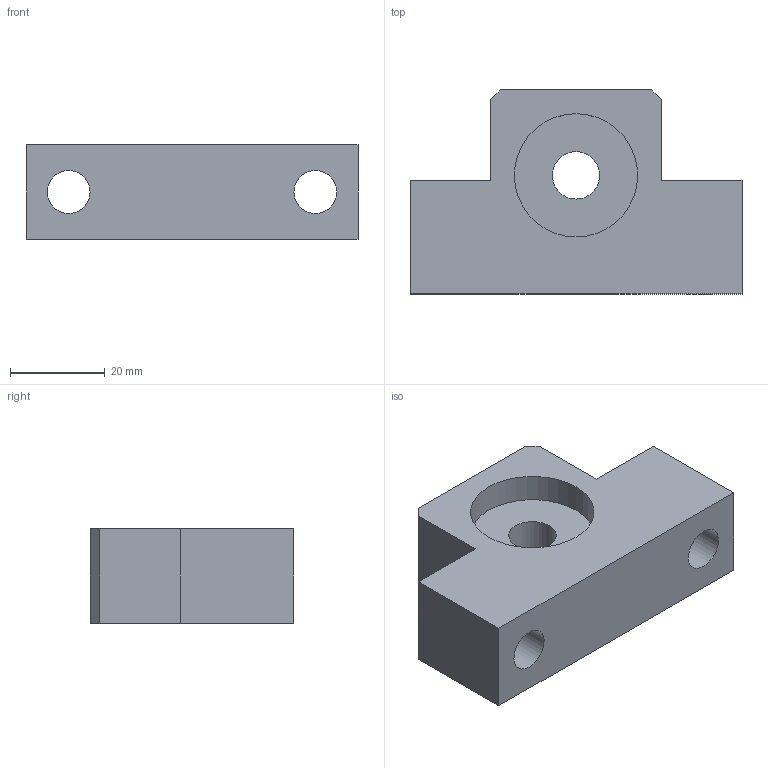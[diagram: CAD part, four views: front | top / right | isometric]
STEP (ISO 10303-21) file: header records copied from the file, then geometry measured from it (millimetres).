
FILE_DESCRIPTION(/* description */ (''),/* implementation_level */ '2;1');
FILE_NAME(/* name */ 'C:\Users\tenki620635\Desktop\官網\圖面\軸承座\3D\setp檔\EF12.stp',/* time_stamp */ '2020-11-20T18:09:10+08:00',/* author */ ('tenki620635'),/* organization */ (''),/* preprocessor_version */ 'ST-DEVELOPER v15.2',/* originating_system */ 'Autodesk Inventor 2014',/* authorisation */ '');
FILE_SCHEMA (('AUTOMOTIVE_DESIGN { 1 0 10303 214 3 1 1 }'));
Length unit declared in the file: millimetre
Products named in the file (1): EF12
Bounding box: 70 x 43 x 20 mm (x, y, z)
Volume: 37146.9 mm3; surface area: 11370.3 mm2
Topology: 1 solids, 1 shells, 19 faces, 47 edges, 32 vertices
Faces by surface type: plane 14, cylinder 5
Full cylindrical faces by diameter (mm): 9 x2, 10 x1, 26 x2
Entity records: 557 total; most frequent: DIRECTION 90, CARTESIAN_POINT 90, ORIENTED_EDGE 80, EDGE_CURVE 40, EDGE_LOOP 32, LINE 30, VECTOR 30, VERTEX_POINT 30
